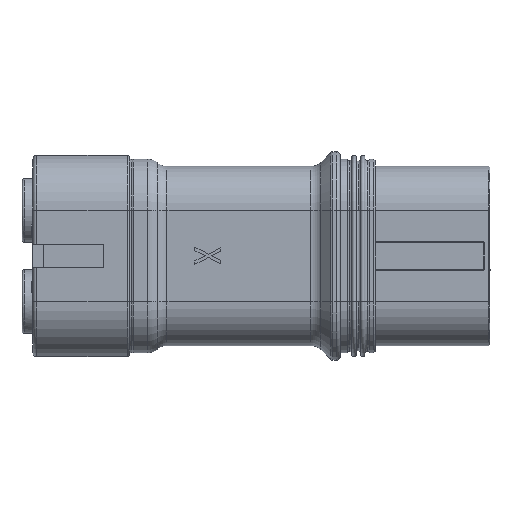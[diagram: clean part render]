
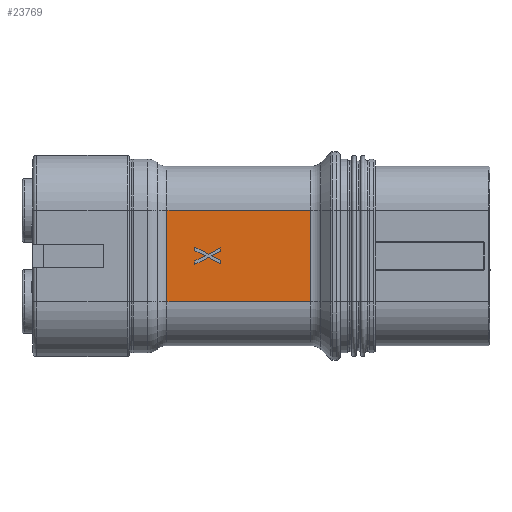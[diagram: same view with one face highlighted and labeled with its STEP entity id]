
A CAD part, left-side view. The second image highlights one B-rep face of the part: STEP entity #23769.
In plain terms, the highlighted planar face has unit normal (-1, 0, 0).
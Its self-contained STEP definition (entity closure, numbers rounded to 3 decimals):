
#232 = EDGE_CURVE ( 'NONE', #12821, #490, #297, .T. ) ;
#297 = LINE ( 'NONE', #23529, #26836 ) ;
#490 = VERTEX_POINT ( 'NONE', #18076 ) ;
#894 = VECTOR ( 'NONE', #15007, 1000. ) ;
#1164 = VECTOR ( 'NONE', #2673, 1000. ) ;
#1285 = VERTEX_POINT ( 'NONE', #26899 ) ;
#1536 = EDGE_CURVE ( 'NONE', #27022, #29603, #17973, .T. ) ;
#2120 = AXIS2_PLACEMENT_3D ( 'NONE', #10668, #29291, #13346 ) ;
#2349 = EDGE_CURVE ( 'NONE', #17156, #490, #24454, .T. ) ;
#2673 = DIRECTION ( 'NONE',  ( 0., -1., 0. ) ) ;
#2681 = VECTOR ( 'NONE', #2738, 1000. ) ;
#2738 = DIRECTION ( 'NONE',  ( 0., 0., -1. ) ) ;
#3256 = CARTESIAN_POINT ( 'NONE',  ( -16.997, 38.977, -1.059 ) ) ;
#3356 = ORIENTED_EDGE ( 'NONE', *, *, #21128, .F. ) ;
#4836 = CARTESIAN_POINT ( 'NONE',  ( -16.997, 38.977, 1.111 ) ) ;
#4890 = ORIENTED_EDGE ( 'NONE', *, *, #6393, .F. ) ;
#6308 = CARTESIAN_POINT ( 'NONE',  ( -16.997, 46.289, -6.25 ) ) ;
#6393 = EDGE_CURVE ( 'NONE', #9608, #22634, #21954, .T. ) ;
#6716 = ORIENTED_EDGE ( 'NONE', *, *, #1536, .F. ) ;
#7635 = FACE_OUTER_BOUND ( 'NONE', #18273, .T. ) ;
#7727 = EDGE_CURVE ( 'NONE', #1285, #20046, #34246, .T. ) ;
#7919 = VECTOR ( 'NONE', #29908, 1000. ) ;
#8025 = VERTEX_POINT ( 'NONE', #15119 ) ;
#8183 = ORIENTED_EDGE ( 'NONE', *, *, #30179, .F. ) ;
#8338 = LINE ( 'NONE', #26850, #21624 ) ;
#8602 = CARTESIAN_POINT ( 'NONE',  ( -16.997, 26.646, -6.25 ) ) ;
#8616 = CARTESIAN_POINT ( 'NONE',  ( -16.997, 40.635, -0.199 ) ) ;
#9197 = CARTESIAN_POINT ( 'NONE',  ( -16.997, 26.646, 6.25 ) ) ;
#9510 = EDGE_CURVE ( 'NONE', #14350, #19321, #34213, .T. ) ;
#9608 = VERTEX_POINT ( 'NONE', #3256 ) ;
#10370 = CARTESIAN_POINT ( 'NONE',  ( -16.997, 40.635, 0.251 ) ) ;
#10610 = ORIENTED_EDGE ( 'NONE', *, *, #18766, .F. ) ;
#10613 = CARTESIAN_POINT ( 'NONE',  ( -16.997, 40.246, 0.026 ) ) ;
#10668 = CARTESIAN_POINT ( 'NONE',  ( -16.997, 63.117, -6.25 ) ) ;
#10891 = VECTOR ( 'NONE', #28394, 1000. ) ;
#11605 = ORIENTED_EDGE ( 'NONE', *, *, #26767, .F. ) ;
#12368 = EDGE_LOOP ( 'NONE', ( #11605, #14506, #8183, #16785, #14198, #6716, #26364, #23756, #23638, #4890, #10610, #16750 ) ) ;
#12821 = VERTEX_POINT ( 'NONE', #8602 ) ;
#12982 = VECTOR ( 'NONE', #31792, 1000. ) ;
#13036 = DIRECTION ( 'NONE',  ( 0., 0.886, 0.463 ) ) ;
#13246 = VECTOR ( 'NONE', #13036, 1000. ) ;
#13346 = DIRECTION ( 'NONE',  ( 0., 0., -1. ) ) ;
#13570 = DIRECTION ( 'NONE',  ( 0., 0., -1. ) ) ;
#14072 = LINE ( 'NONE', #10370, #13246 ) ;
#14159 = EDGE_CURVE ( 'NONE', #8025, #25395, #25420, .T. ) ;
#14198 = ORIENTED_EDGE ( 'NONE', *, *, #24964, .F. ) ;
#14350 = VERTEX_POINT ( 'NONE', #19637 ) ;
#14506 = ORIENTED_EDGE ( 'NONE', *, *, #7727, .F. ) ;
#14583 = EDGE_CURVE ( 'NONE', #22634, #14350, #18270, .T. ) ;
#15007 = DIRECTION ( 'NONE',  ( 0., 0., 1. ) ) ;
#15119 = CARTESIAN_POINT ( 'NONE',  ( -16.997, 42.477, -1.161 ) ) ;
#15777 = CARTESIAN_POINT ( 'NONE',  ( -16.997, 38.977, -0.568 ) ) ;
#16419 = DIRECTION ( 'NONE',  ( 0., -0.886, 0.463 ) ) ;
#16653 = DIRECTION ( 'NONE',  ( 0., -0.888, -0.46 ) ) ;
#16750 = ORIENTED_EDGE ( 'NONE', *, *, #14159, .F. ) ;
#16785 = ORIENTED_EDGE ( 'NONE', *, *, #20231, .F. ) ;
#17156 = VERTEX_POINT ( 'NONE', #31868 ) ;
#17517 = VECTOR ( 'NONE', #16419, 1000. ) ;
#17724 = CARTESIAN_POINT ( 'NONE',  ( -16.997, 38.977, 0.619 ) ) ;
#17973 = LINE ( 'NONE', #22621, #10891 ) ;
#18076 = CARTESIAN_POINT ( 'NONE',  ( -16.997, 46.289, -6.25 ) ) ;
#18270 = LINE ( 'NONE', #28819, #31587 ) ;
#18273 = EDGE_LOOP ( 'NONE', ( #21736, #26999, #3356, #24376 ) ) ;
#18766 = EDGE_CURVE ( 'NONE', #25395, #9608, #27367, .T. ) ;
#19321 = VERTEX_POINT ( 'NONE', #17724 ) ;
#19637 = CARTESIAN_POINT ( 'NONE',  ( -16.997, 40.246, 0.026 ) ) ;
#20046 = VERTEX_POINT ( 'NONE', #34064 ) ;
#20085 = VECTOR ( 'NONE', #31638, 1000. ) ;
#20231 = EDGE_CURVE ( 'NONE', #27799, #21212, #8338, .T. ) ;
#20792 = CARTESIAN_POINT ( 'NONE',  ( -16.997, 42.477, 0.722 ) ) ;
#21128 = EDGE_CURVE ( 'NONE', #17156, #33599, #22279, .T. ) ;
#21174 = LINE ( 'NONE', #30944, #894 ) ;
#21212 = VERTEX_POINT ( 'NONE', #24116 ) ;
#21624 = VECTOR ( 'NONE', #13570, 1000. ) ;
#21705 = CARTESIAN_POINT ( 'NONE',  ( -16.997, 42.477, 1.213 ) ) ;
#21736 = ORIENTED_EDGE ( 'NONE', *, *, #232, .F. ) ;
#21954 = LINE ( 'NONE', #31125, #27366 ) ;
#22156 = EDGE_CURVE ( 'NONE', #33599, #12821, #22969, .T. ) ;
#22279 = LINE ( 'NONE', #23846, #1164 ) ;
#22621 = CARTESIAN_POINT ( 'NONE',  ( -16.997, 38.977, 1.111 ) ) ;
#22634 = VERTEX_POINT ( 'NONE', #15777 ) ;
#22969 = LINE ( 'NONE', #31836, #2681 ) ;
#23373 = DIRECTION ( 'NONE',  ( 0., 1., 0. ) ) ;
#23479 = DIRECTION ( 'NONE',  ( 0., -0.9, -0.437 ) ) ;
#23529 = CARTESIAN_POINT ( 'NONE',  ( -16.997, 63.117, -6.25 ) ) ;
#23638 = ORIENTED_EDGE ( 'NONE', *, *, #14583, .F. ) ;
#23715 = CARTESIAN_POINT ( 'NONE',  ( -16.997, 41.044, 0.026 ) ) ;
#23756 = ORIENTED_EDGE ( 'NONE', *, *, #9510, .F. ) ;
#23769 = ADVANCED_FACE ( 'NONE', ( #27990, #7635 ), #29169, .F. ) ;
#23846 = CARTESIAN_POINT ( 'NONE',  ( -16.997, 63.117, 6.25 ) ) ;
#24116 = CARTESIAN_POINT ( 'NONE',  ( -16.997, 42.477, 0.722 ) ) ;
#24376 = ORIENTED_EDGE ( 'NONE', *, *, #2349, .T. ) ;
#24454 = LINE ( 'NONE', #6308, #30709 ) ;
#24964 = EDGE_CURVE ( 'NONE', #29603, #27799, #14072, .T. ) ;
#25394 = VECTOR ( 'NONE', #23479, 1000. ) ;
#25395 = VERTEX_POINT ( 'NONE', #33728 ) ;
#25420 = LINE ( 'NONE', #32320, #17517 ) ;
#25902 = DIRECTION ( 'NONE',  ( 0., 0., -1. ) ) ;
#26033 = DIRECTION ( 'NONE',  ( 0., 0.906, 0.424 ) ) ;
#26233 = LINE ( 'NONE', #20792, #25394 ) ;
#26364 = ORIENTED_EDGE ( 'NONE', *, *, #26958, .F. ) ;
#26767 = EDGE_CURVE ( 'NONE', #20046, #8025, #28286, .T. ) ;
#26836 = VECTOR ( 'NONE', #23373, 1000. ) ;
#26850 = CARTESIAN_POINT ( 'NONE',  ( -16.997, 42.477, -6.25 ) ) ;
#26899 = CARTESIAN_POINT ( 'NONE',  ( -16.997, 41.044, 0.026 ) ) ;
#26958 = EDGE_CURVE ( 'NONE', #19321, #27022, #21174, .T. ) ;
#26999 = ORIENTED_EDGE ( 'NONE', *, *, #22156, .F. ) ;
#27022 = VERTEX_POINT ( 'NONE', #4836 ) ;
#27326 = CARTESIAN_POINT ( 'NONE',  ( -16.997, 42.477, -6.25 ) ) ;
#27366 = VECTOR ( 'NONE', #33804, 1000. ) ;
#27367 = LINE ( 'NONE', #8616, #33626 ) ;
#27799 = VERTEX_POINT ( 'NONE', #21705 ) ;
#27990 = FACE_BOUND ( 'NONE', #12368, .T. ) ;
#28286 = LINE ( 'NONE', #27326, #7919 ) ;
#28394 = DIRECTION ( 'NONE',  ( 0., 0.888, -0.46 ) ) ;
#28819 = CARTESIAN_POINT ( 'NONE',  ( -16.997, 38.977, -0.568 ) ) ;
#29169 = PLANE ( 'NONE',  #2120 ) ;
#29291 = DIRECTION ( 'NONE',  ( 1., 0., 0. ) ) ;
#29603 = VERTEX_POINT ( 'NONE', #34223 ) ;
#29908 = DIRECTION ( 'NONE',  ( 0., 0., -1. ) ) ;
#30179 = EDGE_CURVE ( 'NONE', #21212, #1285, #26233, .T. ) ;
#30709 = VECTOR ( 'NONE', #25902, 1000. ) ;
#30944 = CARTESIAN_POINT ( 'NONE',  ( -16.997, 38.977, -6.25 ) ) ;
#31125 = CARTESIAN_POINT ( 'NONE',  ( -16.997, 38.977, -6.25 ) ) ;
#31587 = VECTOR ( 'NONE', #26033, 1000. ) ;
#31638 = DIRECTION ( 'NONE',  ( 0., 0.9, -0.437 ) ) ;
#31792 = DIRECTION ( 'NONE',  ( 0., -0.906, 0.424 ) ) ;
#31836 = CARTESIAN_POINT ( 'NONE',  ( -16.997, 26.646, -6.25 ) ) ;
#31868 = CARTESIAN_POINT ( 'NONE',  ( -16.997, 46.289, 6.25 ) ) ;
#32320 = CARTESIAN_POINT ( 'NONE',  ( -16.997, 42.477, -1.161 ) ) ;
#33599 = VERTEX_POINT ( 'NONE', #9197 ) ;
#33626 = VECTOR ( 'NONE', #16653, 1000. ) ;
#33728 = CARTESIAN_POINT ( 'NONE',  ( -16.997, 40.635, -0.199 ) ) ;
#33804 = DIRECTION ( 'NONE',  ( 0., 0., 1. ) ) ;
#34064 = CARTESIAN_POINT ( 'NONE',  ( -16.997, 42.477, -0.67 ) ) ;
#34213 = LINE ( 'NONE', #10613, #12982 ) ;
#34223 = CARTESIAN_POINT ( 'NONE',  ( -16.997, 40.635, 0.251 ) ) ;
#34246 = LINE ( 'NONE', #23715, #20085 ) ;
